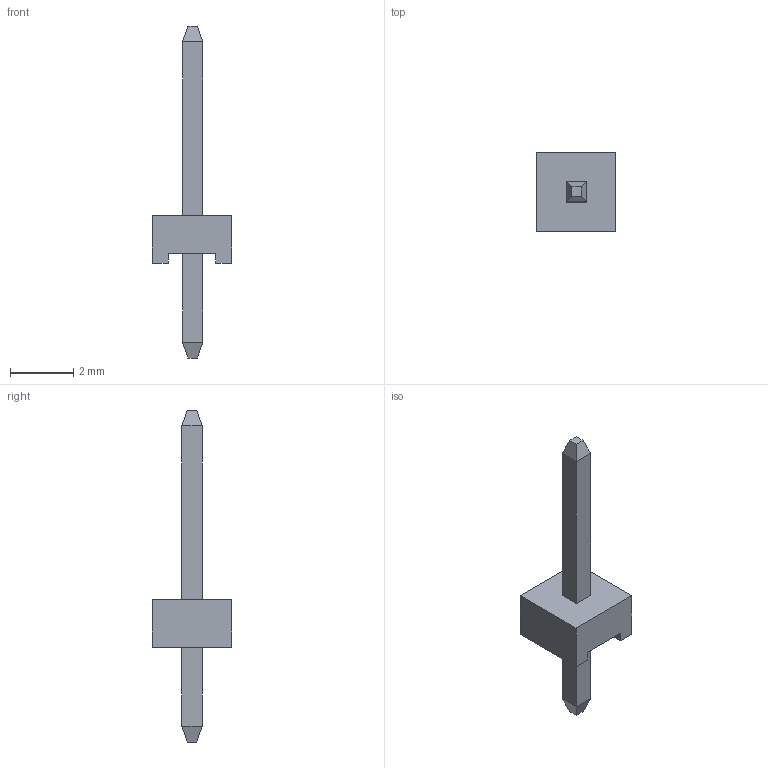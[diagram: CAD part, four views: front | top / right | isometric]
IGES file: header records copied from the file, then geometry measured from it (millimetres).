
Start section: SolidWorks IGES file using analytic representation for surfaces
Bounding box: 2.5 x 2.5 x 10.5 mm (x, y, z)
Surface area: 50.7 mm2 (no closed solid volume)
Topology: 0 solids, 0 shells, 28 faces, 128 edges, 128 vertices
Faces by surface type: bspline 28
